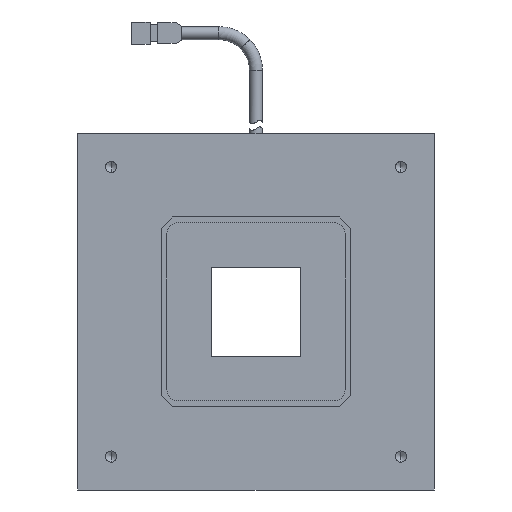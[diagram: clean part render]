
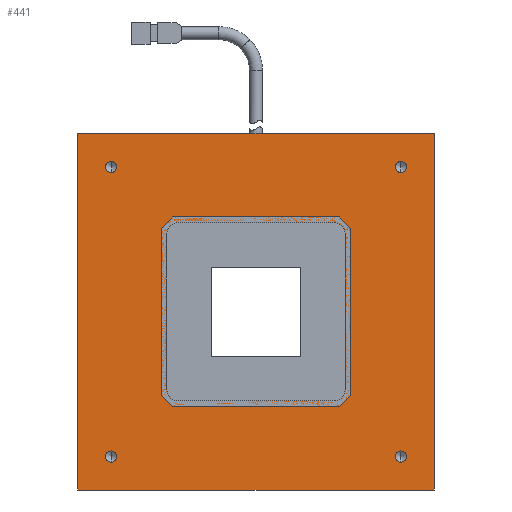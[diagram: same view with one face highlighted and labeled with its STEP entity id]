
A CAD part, front view. The second image highlights one B-rep face of the part: STEP entity #441.
In plain terms, the highlighted planar face has unit normal (0, -1, 0).
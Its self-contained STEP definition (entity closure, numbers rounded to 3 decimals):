
#441=ADVANCED_FACE('',(#727,#728,#729,#730,#731,#732),#568,.F.);
#568=PLANE('',#3343);
#672=CIRCLE('',#3331,1.5);
#673=CIRCLE('',#3332,1.5);
#674=CIRCLE('',#3333,1.5);
#675=CIRCLE('',#3334,1.5);
#676=CIRCLE('',#3335,1.5);
#677=CIRCLE('',#3336,1.5);
#678=CIRCLE('',#3337,1.5);
#679=CIRCLE('',#3338,1.5);
#680=CIRCLE('',#3339,3.);
#681=CIRCLE('',#3340,3.);
#682=CIRCLE('',#3341,3.);
#683=CIRCLE('',#3342,3.);
#727=FACE_BOUND('',#884,.T.);
#728=FACE_BOUND('',#885,.T.);
#729=FACE_BOUND('',#886,.T.);
#730=FACE_BOUND('',#887,.T.);
#731=FACE_BOUND('',#888,.T.);
#732=FACE_BOUND('',#889,.T.);
#884=EDGE_LOOP('',(#1610,#1611,#1612,#1613));
#885=EDGE_LOOP('',(#1614,#1615));
#886=EDGE_LOOP('',(#1616,#1617));
#887=EDGE_LOOP('',(#1618,#1619));
#888=EDGE_LOOP('',(#1620,#1621));
#889=EDGE_LOOP('',(#1622,#1623,#1624,#1625,#1626,#1627,#1628,#1629));
#1610=ORIENTED_EDGE('',*,*,#2418,.T.);
#1611=ORIENTED_EDGE('',*,*,#2424,.T.);
#1612=ORIENTED_EDGE('',*,*,#2420,.T.);
#1613=ORIENTED_EDGE('',*,*,#2326,.F.);
#1614=ORIENTED_EDGE('',*,*,#2425,.F.);
#1615=ORIENTED_EDGE('',*,*,#2426,.F.);
#1616=ORIENTED_EDGE('',*,*,#2427,.F.);
#1617=ORIENTED_EDGE('',*,*,#2428,.F.);
#1618=ORIENTED_EDGE('',*,*,#2429,.F.);
#1619=ORIENTED_EDGE('',*,*,#2430,.F.);
#1620=ORIENTED_EDGE('',*,*,#2431,.F.);
#1621=ORIENTED_EDGE('',*,*,#2432,.F.);
#1622=ORIENTED_EDGE('',*,*,#2433,.F.);
#1623=ORIENTED_EDGE('',*,*,#2434,.T.);
#1624=ORIENTED_EDGE('',*,*,#2435,.F.);
#1625=ORIENTED_EDGE('',*,*,#2436,.T.);
#1626=ORIENTED_EDGE('',*,*,#2437,.F.);
#1627=ORIENTED_EDGE('',*,*,#2438,.T.);
#1628=ORIENTED_EDGE('',*,*,#2439,.F.);
#1629=ORIENTED_EDGE('',*,*,#2440,.T.);
#1956=VERTEX_POINT('',#4997);
#1958=VERTEX_POINT('',#5001);
#2027=VERTEX_POINT('',#5185);
#2028=VERTEX_POINT('',#5189);
#2031=VERTEX_POINT('',#5199);
#2032=VERTEX_POINT('',#5200);
#2033=VERTEX_POINT('',#5203);
#2034=VERTEX_POINT('',#5204);
#2035=VERTEX_POINT('',#5207);
#2036=VERTEX_POINT('',#5208);
#2037=VERTEX_POINT('',#5211);
#2038=VERTEX_POINT('',#5212);
#2039=VERTEX_POINT('',#5215);
#2040=VERTEX_POINT('',#5216);
#2041=VERTEX_POINT('',#5218);
#2042=VERTEX_POINT('',#5220);
#2043=VERTEX_POINT('',#5222);
#2044=VERTEX_POINT('',#5224);
#2045=VERTEX_POINT('',#5226);
#2046=VERTEX_POINT('',#5228);
#2326=EDGE_CURVE('',#1958,#1956,#2692,.T.);
#2418=EDGE_CURVE('',#1958,#2027,#2750,.T.);
#2420=EDGE_CURVE('',#2028,#1956,#2752,.T.);
#2424=EDGE_CURVE('',#2027,#2028,#2754,.T.);
#2425=EDGE_CURVE('',#2031,#2032,#672,.T.);
#2426=EDGE_CURVE('',#2032,#2031,#673,.T.);
#2427=EDGE_CURVE('',#2033,#2034,#674,.T.);
#2428=EDGE_CURVE('',#2034,#2033,#675,.T.);
#2429=EDGE_CURVE('',#2035,#2036,#676,.T.);
#2430=EDGE_CURVE('',#2036,#2035,#677,.T.);
#2431=EDGE_CURVE('',#2037,#2038,#678,.T.);
#2432=EDGE_CURVE('',#2038,#2037,#679,.T.);
#2433=EDGE_CURVE('',#2039,#2040,#680,.T.);
#2434=EDGE_CURVE('',#2039,#2041,#2755,.T.);
#2435=EDGE_CURVE('',#2042,#2041,#681,.T.);
#2436=EDGE_CURVE('',#2042,#2043,#2756,.T.);
#2437=EDGE_CURVE('',#2044,#2043,#682,.T.);
#2438=EDGE_CURVE('',#2044,#2045,#2757,.T.);
#2439=EDGE_CURVE('',#2046,#2045,#683,.T.);
#2440=EDGE_CURVE('',#2046,#2040,#2758,.T.);
#2692=LINE('',#5002,#3004);
#2750=LINE('',#5184,#3062);
#2752=LINE('',#5188,#3064);
#2754=LINE('',#5196,#3066);
#2755=LINE('',#5217,#3067);
#2756=LINE('',#5221,#3068);
#2757=LINE('',#5225,#3069);
#2758=LINE('',#5229,#3070);
#3004=VECTOR('',#3927,1.);
#3062=VECTOR('',#4097,1.);
#3064=VECTOR('',#4101,1.);
#3066=VECTOR('',#4109,1.);
#3067=VECTOR('',#4130,1.);
#3068=VECTOR('',#4133,1.);
#3069=VECTOR('',#4136,1.);
#3070=VECTOR('',#4139,1.);
#3331=AXIS2_PLACEMENT_3D('',#5198,#4112,#4113);
#3332=AXIS2_PLACEMENT_3D('',#5201,#4114,#4115);
#3333=AXIS2_PLACEMENT_3D('',#5202,#4116,#4117);
#3334=AXIS2_PLACEMENT_3D('',#5205,#4118,#4119);
#3335=AXIS2_PLACEMENT_3D('',#5206,#4120,#4121);
#3336=AXIS2_PLACEMENT_3D('',#5209,#4122,#4123);
#3337=AXIS2_PLACEMENT_3D('',#5210,#4124,#4125);
#3338=AXIS2_PLACEMENT_3D('',#5213,#4126,#4127);
#3339=AXIS2_PLACEMENT_3D('',#5214,#4128,#4129);
#3340=AXIS2_PLACEMENT_3D('',#5219,#4131,#4132);
#3341=AXIS2_PLACEMENT_3D('',#5223,#4134,#4135);
#3342=AXIS2_PLACEMENT_3D('',#5227,#4137,#4138);
#3343=AXIS2_PLACEMENT_3D('',#5230,#4140,#4141);
#3927=DIRECTION('',(-1.,0.,0.));
#4097=DIRECTION('',(0.,0.,1.));
#4101=DIRECTION('',(0.,0.,-1.));
#4109=DIRECTION('',(-1.,0.,0.));
#4112=DIRECTION('',(0.,-1.,0.));
#4113=DIRECTION('',(0.,0.,1.));
#4114=DIRECTION('',(0.,-1.,0.));
#4115=DIRECTION('',(0.,0.,1.));
#4116=DIRECTION('',(0.,-1.,0.));
#4117=DIRECTION('',(0.,0.,1.));
#4118=DIRECTION('',(0.,-1.,0.));
#4119=DIRECTION('',(0.,0.,1.));
#4120=DIRECTION('',(0.,-1.,0.));
#4121=DIRECTION('',(0.,0.,1.));
#4122=DIRECTION('',(0.,-1.,0.));
#4123=DIRECTION('',(0.,0.,1.));
#4124=DIRECTION('',(0.,-1.,0.));
#4125=DIRECTION('',(0.,0.,1.));
#4126=DIRECTION('',(0.,-1.,0.));
#4127=DIRECTION('',(0.,0.,1.));
#4128=DIRECTION('',(0.,-1.,0.));
#4129=DIRECTION('',(-1.,0.,0.));
#4130=DIRECTION('',(0.,0.,1.));
#4131=DIRECTION('',(0.,-1.,0.));
#4132=DIRECTION('',(0.,0.,1.));
#4133=DIRECTION('',(1.,0.,0.));
#4134=DIRECTION('',(0.,-1.,0.));
#4135=DIRECTION('',(1.,0.,0.));
#4136=DIRECTION('',(0.,0.,-1.));
#4137=DIRECTION('',(0.,-1.,0.));
#4138=DIRECTION('',(0.,0.,-1.));
#4139=DIRECTION('',(-1.,0.,0.));
#4140=DIRECTION('',(0.,1.,0.));
#4141=DIRECTION('',(0.,0.,-1.));
#4997=CARTESIAN_POINT('',(-48.,0.,-48.));
#5001=CARTESIAN_POINT('',(48.,0.,-48.));
#5002=CARTESIAN_POINT('',(0.,0.,-48.));
#5184=CARTESIAN_POINT('',(48.,0.,0.));
#5185=CARTESIAN_POINT('',(48.,0.,48.));
#5188=CARTESIAN_POINT('',(-48.,0.,0.));
#5189=CARTESIAN_POINT('',(-48.,0.,48.));
#5196=CARTESIAN_POINT('',(0.,0.,48.));
#5198=CARTESIAN_POINT('',(-39.,0.,39.));
#5199=CARTESIAN_POINT('',(-39.,0.,37.5));
#5200=CARTESIAN_POINT('',(-39.,0.,40.5));
#5201=CARTESIAN_POINT('',(-39.,0.,39.));
#5202=CARTESIAN_POINT('',(39.,0.,39.));
#5203=CARTESIAN_POINT('',(39.,0.,37.5));
#5204=CARTESIAN_POINT('',(39.,0.,40.5));
#5205=CARTESIAN_POINT('',(39.,0.,39.));
#5206=CARTESIAN_POINT('',(39.,0.,-39.));
#5207=CARTESIAN_POINT('',(39.,0.,-40.5));
#5208=CARTESIAN_POINT('',(39.,0.,-37.5));
#5209=CARTESIAN_POINT('',(39.,0.,-39.));
#5210=CARTESIAN_POINT('',(-39.,0.,-39.));
#5211=CARTESIAN_POINT('',(-39.,0.,-40.5));
#5212=CARTESIAN_POINT('',(-39.,0.,-37.5));
#5213=CARTESIAN_POINT('',(-39.,0.,-39.));
#5214=CARTESIAN_POINT('',(-21.,0.,-21.));
#5215=CARTESIAN_POINT('',(-24.,0.,-21.));
#5216=CARTESIAN_POINT('',(-21.,0.,-24.));
#5217=CARTESIAN_POINT('',(-24.,0.,-21.));
#5218=CARTESIAN_POINT('',(-24.,0.,21.));
#5219=CARTESIAN_POINT('',(-21.,0.,21.));
#5220=CARTESIAN_POINT('',(-21.,0.,24.));
#5221=CARTESIAN_POINT('',(-21.,0.,24.));
#5222=CARTESIAN_POINT('',(21.,0.,24.));
#5223=CARTESIAN_POINT('',(21.,0.,21.));
#5224=CARTESIAN_POINT('',(24.,0.,21.));
#5225=CARTESIAN_POINT('',(24.,0.,21.));
#5226=CARTESIAN_POINT('',(24.,0.,-21.));
#5227=CARTESIAN_POINT('',(21.,0.,-21.));
#5228=CARTESIAN_POINT('',(21.,0.,-24.));
#5229=CARTESIAN_POINT('',(21.,0.,-24.));
#5230=CARTESIAN_POINT('',(0.,0.,0.));
